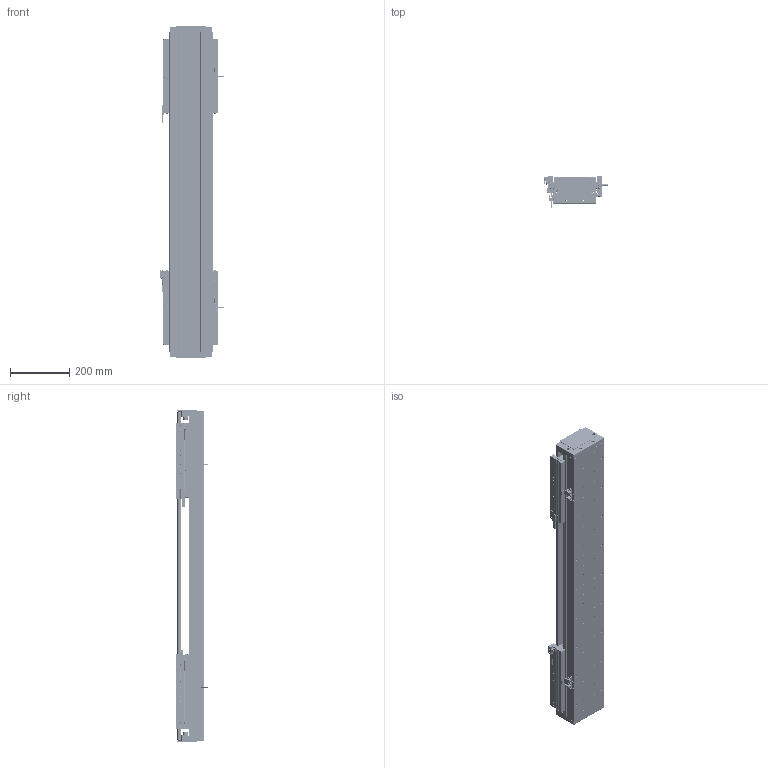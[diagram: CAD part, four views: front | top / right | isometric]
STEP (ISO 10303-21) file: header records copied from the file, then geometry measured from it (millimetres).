
FILE_DESCRIPTION (( 'STEP AP203' ), '1' );
FILE_NAME ('DA-C145-2-C3-T500-C010-0.2 眻盄萇儂.STEP', '2025-08-13T10:15:57', ( '' ), ( '' ), 'SwSTEP 2.0', 'SolidWorks 2019', '' );
FILE_SCHEMA (( 'CONFIG_CONTROL_DESIGN' ));
Length unit declared in the file: millimetre
Products named in the file (35): 复件 半圆头内六角螺钉 M3×6^CU145-W 滚珠滑台; CU145-W 幗紩賑怢-1; 复件 纯铜油杯 6x6mm^CU145-W 滚珠滑台; IU-CU145-L-00 菁釱(L1080); 复件 内六角平端紧定螺钉 GB.T77-2000 M5×10^CU145-W 滚珠滑台; 复件 DA95-MFP-01 密封片^CU145-W 滚珠滑台; 葩璃 CKMA01-W060-TRL^DA-C145-2-C3-T-C010-0.2; 复件 DA95-HK-GT-00 滑块钢轨^CU145-W-00 一体化滑动台板; CU145-W-00 珨极趙賑雄怢啣-1; 葩璃 DA145-C3-DP-A-00 菜えA^CU145-W 幗紩賑怢; 葩璃 DA145-T-003-00 裔啣^DA-C145-2-C3-T-C010-0.2; 葩璃 鞠褒情蹟譫 M3^DA-C145-2-C3-T-C010-0.2; TAY01-M8; 复件 DA95-DB-00  挡板^CU145-W 滚珠滑台; 葩璃 DA95-GT-T-00^IU-CU145-L 菁釱絳寢; 葩璃 PM-Y65^DA-C145-2-C3-T-C010-0.2; 复件 DA145-C3-DK-00 挡块^CU145-W 滚珠滑台; 葩璃 DA145-DG-H-N-00 傷裔^DA-C145-2-C3-T-C010-0.2; 葩璃 DA145-C3-DP-B-00 菜えB^CU145-W 幗紩賑怢; 葩璃 CKM03-W060-C1C2-TP-0.2^DA-C145-2-C3-T-C010-0.2; 复件 DA145-GYP-00 光电感应片^DA-C145-2-C3-T-C010-0.2; CU145-W-00 珨极趙賑雄怢啣; DKW-KGZ-ZJ-00 中间光电开关支架; DKW168-HXJ-ZJ-00 笢潔滅袉砎蝶; 复件 DA145-C3-YB-B-00 压板B^CU145-W 滚珠滑台; IU-CU145-L 菁釱絳寢; 葩璃 PM-T45^DA-C145-2-C3-T-C010-0.2; DKW-GYP-ZJ-00 笢潔嫖萇覜茼え; 复件 DA145-C3-YB-A-00 压板A^CU145-W 滚珠滑台; 66245-CU145-HT-W-00 賑雄怢啣(3D芞祧)(00); CU145-W 幗紩賑怢; 葩璃 DMA-010-0.2 黍杅芛^DA-C145-2-C3-T-C010-0.2; DA-C145-2-C3-T500-C010-0.2 眻盄萇儂; 葩璃 DA95-HXJ-00 遣喳砎蝶^DA-C145-2-C3-T-C010-0.2; 葩璃 XD-U-02L 棠掑喜^DA-C145-2-C3-T-C010-0.2
Assembly tree (175 placements, depth 4):
  DA-C145-2-C3-T500-C010-0.2 眻盄萇儂
    IU-CU145-L 菁釱絳寢
      IU-CU145-L-00 菁釱(L1080)
      葩璃 DA95-GT-T-00^IU-CU145-L 菁釱絳寢  x4
    CU145-W 幗紩賑怢
      CU145-W-00 珨极趙賑雄怢啣
        66245-CU145-HT-W-00 賑雄怢啣(3D芞祧)(00)
        复件 DA95-HK-GT-00 滑块钢轨^CU145-W-00 一体化滑动台板  x8
      复件 DA95-MFP-01 密封片^CU145-W 滚珠滑台  x8
      复件 DA95-DB-00  挡板^CU145-W 滚珠滑台  x8
      复件 内六角平端紧定螺钉 GB.T77-2000 M5×10^CU145-W 滚珠滑台  x4
      复件 纯铜油杯 6x6mm^CU145-W 滚珠滑台  x4
      复件 半圆头内六角螺钉 M3×6^CU145-W 滚珠滑台  x16
      复件 DA145-C3-DK-00 挡块^CU145-W 滚珠滑台  x4
      葩璃 DA145-C3-DP-B-00 菜えB^CU145-W 幗紩賑怢  x2
      复件 DA145-C3-YB-B-00 压板B^CU145-W 滚珠滑台  x2
      葩璃 DA145-C3-DP-A-00 菜えA^CU145-W 幗紩賑怢  x3
      复件 DA145-C3-YB-A-00 压板A^CU145-W 滚珠滑台  x3
      TAY01-M8  x4
    CU145-W 幗紩賑怢-1
      CU145-W-00 珨极趙賑雄怢啣-1
        66245-CU145-HT-W-00 賑雄怢啣(3D芞祧)(00)
        复件 DA95-HK-GT-00 滑块钢轨^CU145-W-00 一体化滑动台板  x8
      复件 DA95-MFP-01 密封片^CU145-W 滚珠滑台  x8
      复件 DA95-DB-00  挡板^CU145-W 滚珠滑台  x8
      复件 内六角平端紧定螺钉 GB.T77-2000 M5×10^CU145-W 滚珠滑台  x4
      复件 纯铜油杯 6x6mm^CU145-W 滚珠滑台  x4
      复件 半圆头内六角螺钉 M3×6^CU145-W 滚珠滑台  x16
      复件 DA145-C3-DK-00 挡块^CU145-W 滚珠滑台  x4
      葩璃 DA145-C3-DP-B-00 菜えB^CU145-W 幗紩賑怢  x2
      复件 DA145-C3-YB-B-00 压板B^CU145-W 滚珠滑台  x2
      葩璃 DA145-C3-DP-A-00 菜えA^CU145-W 幗紩賑怢  x3
      复件 DA145-C3-YB-A-00 压板A^CU145-W 滚珠滑台  x3
      TAY01-M8  x4
    葩璃 CKMA01-W060-TRL^DA-C145-2-C3-T-C010-0.2
    葩璃 PM-T45^DA-C145-2-C3-T-C010-0.2  x4
    葩璃 XD-U-02L 棠掑喜^DA-C145-2-C3-T-C010-0.2
    葩璃 DA145-DG-H-N-00 傷裔^DA-C145-2-C3-T-C010-0.2  x2
    葩璃 DA145-T-003-00 裔啣^DA-C145-2-C3-T-C010-0.2
    葩璃 DA95-HXJ-00 遣喳砎蝶^DA-C145-2-C3-T-C010-0.2  x4
    葩璃 CKM03-W060-C1C2-TP-0.2^DA-C145-2-C3-T-C010-0.2  x2
    葩璃 DMA-010-0.2 黍杅芛^DA-C145-2-C3-T-C010-0.2  x2
    复件 DA145-GYP-00 光电感应片^DA-C145-2-C3-T-C010-0.2  x2
    DKW-GYP-ZJ-00 笢潔嫖萇覜茼え
    DKW-KGZ-ZJ-00 中间光电开关支架
    葩璃 PM-Y65^DA-C145-2-C3-T-C010-0.2
    葩璃 鞠褒情蹟譫 M3^DA-C145-2-C3-T-C010-0.2  x8
    DKW168-HXJ-ZJ-00 笢潔滅袉砎蝶
Bounding box: 213.7 x 108.45 x 1120 mm (x, y, z)
Volume: 9177856 mm3; surface area: 2523930.5 mm2
Topology: 171 solids, 235 shells, 6893 faces, 17830 edges, 10919 vertices
Faces by surface type: plane 2930, cylinder 2675, cone 1120, torus 152, sphere 8, bspline 8
Entity records: 104905 total; most frequent: CARTESIAN_POINT 25658, DIRECTION 15037, ORIENTED_EDGE 14824, EDGE_CURVE 7412, AXIS2_PLACEMENT_3D 5455, VERTEX_POINT 4768, LINE 4127, VECTOR 4127
